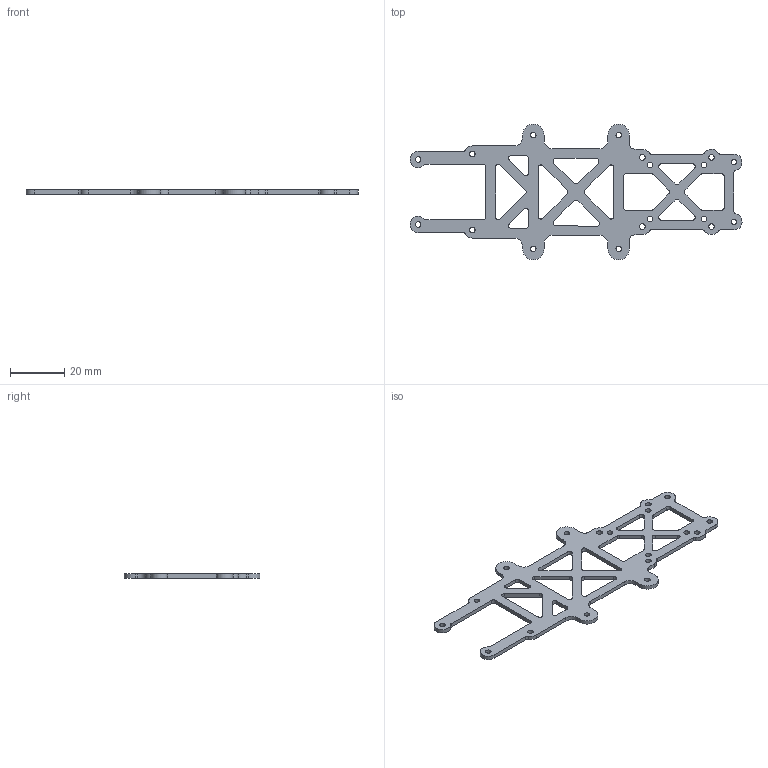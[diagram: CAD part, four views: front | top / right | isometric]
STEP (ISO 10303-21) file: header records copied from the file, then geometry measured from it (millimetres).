
FILE_DESCRIPTION(/* description */ ('','CAx-IF Rec.Pracs.---Representation and Presentation of Product Manufacturing Information (PMI)---4.0---2014-10-13'),/* implementation_level */ '2;1');
FILE_NAME(/* name */ 'GoFlyPro - 3-inch - Topplate-V2.step',/* time_stamp */ '2025-03-23T19:46:48+01:00',/* author */ (''),/* organization */ (''),/* preprocessor_version */ 'ST-DEVELOPER v20',/* originating_system */ 'Autodesk Translation Framework v13.20.0.188',/* authorisation */ '');
FILE_SCHEMA (('AP242_MANAGED_MODEL_BASED_3D_ENGINEERING_MIM_LF { 1 0 10303 442 1 1 4 }'));
Length unit declared in the file: millimetre
Products named in the file (1): GoFlyPro - 3Z - Topplate-V2
Bounding box: 122.5 x 50 x 1.5 mm (x, y, z)
Volume: 3381.8 mm3; surface area: 5975.2 mm2
Topology: 1 solids, 1 shells, 154 faces, 456 edges, 304 vertices
Faces by surface type: cylinder 91, plane 63
Full cylindrical faces by diameter (mm): 2 x10, 2.1 x8
Entity records: 5371 total; most frequent: DIRECTION 948, CARTESIAN_POINT 915, ORIENTED_EDGE 912, EDGE_CURVE 456, AXIS2_PLACEMENT_3D 337, VERTEX_POINT 304, LINE 274, VECTOR 274
